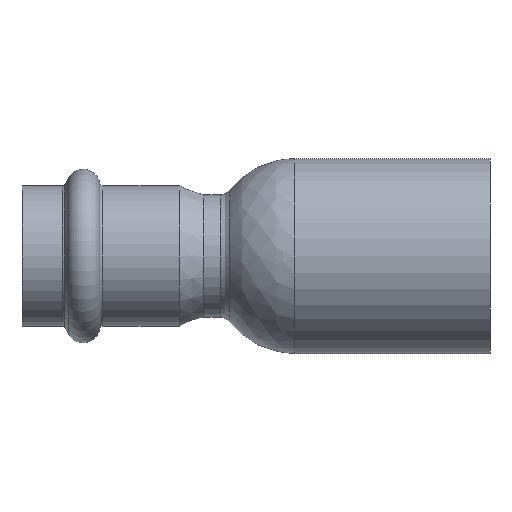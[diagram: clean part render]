
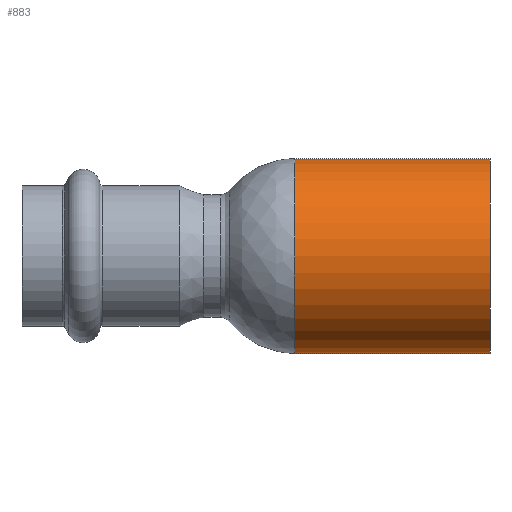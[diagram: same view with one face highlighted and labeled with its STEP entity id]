
A CAD part, front view. The second image highlights one B-rep face of the part: STEP entity #883.
In plain terms, the highlighted cylindrical face has radius 17.5 mm (diameter 35 mm), a full revolution.
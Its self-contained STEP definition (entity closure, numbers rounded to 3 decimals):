
#849=CARTESIAN_POINT('',(-35.0,17.5,0.0));
#850=VERTEX_POINT('',#849);
#851=CARTESIAN_POINT('',(-35.0,0.0,0.0));
#852=DIRECTION('',(1.0,0.0,0.0));
#853=DIRECTION('',(0.0,1.0,0.0));
#854=AXIS2_PLACEMENT_3D('',#851,#852,#853);
#855=CIRCLE('',#854,17.5);
#856=EDGE_CURVE('',#850,#850,#855,.T.);
#864=CARTESIAN_POINT('',(-17.5,0.0,0.0));
#865=DIRECTION('',(1.0,0.0,0.0));
#866=DIRECTION('',(0.0,1.0,0.0));
#867=AXIS2_PLACEMENT_3D('',#864,#865,#866);
#868=CYLINDRICAL_SURFACE('',#867,17.5);
#869=CARTESIAN_POINT('',(0.0,17.5,0.0));
#870=VERTEX_POINT('',#869);
#871=CARTESIAN_POINT('',(0.0,0.0,0.0));
#872=DIRECTION('',(1.0,0.0,0.0));
#873=DIRECTION('',(0.0,1.0,0.0));
#874=AXIS2_PLACEMENT_3D('',#871,#872,#873);
#875=CIRCLE('',#874,17.5);
#876=EDGE_CURVE('',#870,#870,#875,.T.);
#877=ORIENTED_EDGE('',*,*,#876,.F.);
#878=EDGE_LOOP('',(#877));
#879=FACE_OUTER_BOUND('',#878,.T.);
#880=ORIENTED_EDGE('',*,*,#856,.T.);
#881=EDGE_LOOP('',(#880));
#882=FACE_BOUND('',#881,.T.);
#883=ADVANCED_FACE('',(#879,#882),#868,.T.);
